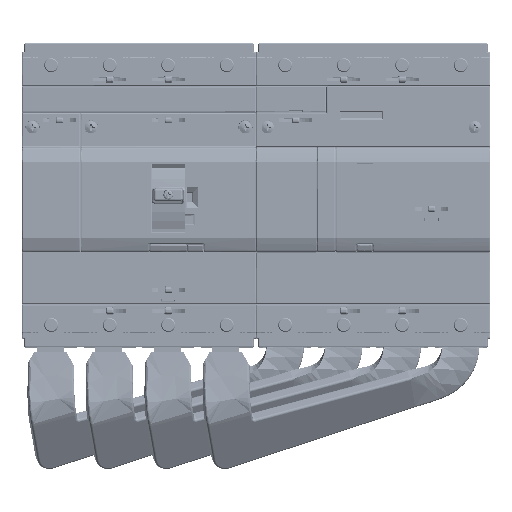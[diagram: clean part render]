
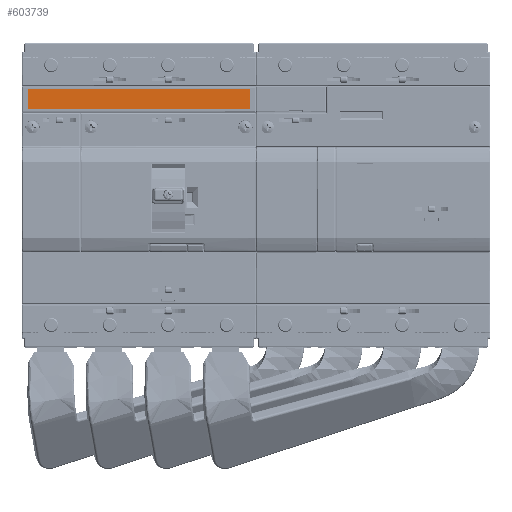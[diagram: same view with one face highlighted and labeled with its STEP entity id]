
A CAD part, top view. The second image highlights one B-rep face of the part: STEP entity #603739.
In plain terms, the highlighted planar face has unit normal (0, 0, 1).
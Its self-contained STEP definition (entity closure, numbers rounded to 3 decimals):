
#120441 = VECTOR ( 'NONE', #197080, 1000. ) ;
#121198 = VECTOR ( 'NONE', #201052, 1000. ) ;
#121327 = VECTOR ( 'NONE', #201807, 1000. ) ;
#121709 = VECTOR ( 'NONE', #203137, 1000. ) ;
#188679 = EDGE_LOOP ( 'NONE', ( #617472, #617476, #617481, #617485, #617490, #617494, #617503, #617511 ) ) ;
#197064 = LINE ( 'NONE', #197075, #120441 ) ;
#197075 = CARTESIAN_POINT ( 'NONE',  ( -89.749, 42.163, 23.444 ) ) ;
#197080 = DIRECTION ( 'NONE',  ( 1., 0., 0. ) ) ;
#200645 = CARTESIAN_POINT ( 'NONE',  ( -20.049, 42.385, 23.444 ) ) ;
#200665 = CARTESIAN_POINT ( 'NONE',  ( -20.081, 42.307, 23.444 ) ) ;
#200696 = CARTESIAN_POINT ( 'NONE',  ( -20.049, 42.463, 23.444 ) ) ;
#200710 = CARTESIAN_POINT ( 'NONE',  ( -20.192, 42.196, 23.444 ) ) ;
#200716 = CARTESIAN_POINT ( 'NONE',  ( -20.271, 42.163, 23.444 ) ) ;
#200721 = CARTESIAN_POINT ( 'NONE',  ( -20.349, 42.163, 23.444 ) ) ;
#201034 = LINE ( 'NONE', #201047, #121198 ) ;
#201047 = CARTESIAN_POINT ( 'NONE',  ( -89.749, 50.663, 23.444 ) ) ;
#201052 = DIRECTION ( 'NONE',  ( -1., 0., 0. ) ) ;
#201337 = CARTESIAN_POINT ( 'NONE',  ( -114.79, 50.661, 23.444 ) ) ;
#201433 = CARTESIAN_POINT ( 'NONE',  ( -114.77, 50.663, 23.444 ) ) ;
#201444 = CARTESIAN_POINT ( 'NONE',  ( -114.749, 50.663, 23.444 ) ) ;
#201451 = CARTESIAN_POINT ( 'NONE',  ( -114.828, 50.653, 23.444 ) ) ;
#201457 = CARTESIAN_POINT ( 'NONE',  ( -114.844, 50.648, 23.444 ) ) ;
#201463 = CARTESIAN_POINT ( 'NONE',  ( -114.883, 50.632, 23.444 ) ) ;
#201470 = CARTESIAN_POINT ( 'NONE',  ( -114.901, 50.622, 23.444 ) ) ;
#201476 = CARTESIAN_POINT ( 'NONE',  ( -114.933, 50.601, 23.444 ) ) ;
#201483 = CARTESIAN_POINT ( 'NONE',  ( -114.947, 50.59, 23.444 ) ) ;
#201489 = CARTESIAN_POINT ( 'NONE',  ( -115.018, 50.517, 23.444 ) ) ;
#201493 = CARTESIAN_POINT ( 'NONE',  ( -115.048, 50.446, 23.444 ) ) ;
#201498 = CARTESIAN_POINT ( 'NONE',  ( -115.049, 50.363, 23.444 ) ) ;
#201752 = LINE ( 'NONE', #201792, #121327 ) ;
#201792 = CARTESIAN_POINT ( 'NONE',  ( -20.049, 50.363, 23.444 ) ) ;
#201807 = DIRECTION ( 'NONE',  ( 0., 1., 0. ) ) ;
#203130 = LINE ( 'NONE', #203134, #121709 ) ;
#203134 = CARTESIAN_POINT ( 'NONE',  ( -115.049, 50.363, 23.444 ) ) ;
#203137 = DIRECTION ( 'NONE',  ( 0., -1., 0. ) ) ;
#277161 = EDGE_CURVE ( 'NONE', #330633, #330628, #555143, .T. ) ;
#280887 = EDGE_CURVE ( 'NONE', #330678, #330681, #557153, .T. ) ;
#280910 = EDGE_CURVE ( 'NONE', #330681, #330687, #197064, .T. ) ;
#281589 = EDGE_CURVE ( 'NONE', #330661, #330687, #557455, .T. ) ;
#281644 = EDGE_CURVE ( 'NONE', #330628, #330668, #201034, .T. ) ;
#281717 = EDGE_CURVE ( 'NONE', #330668, #330670, #557515, .T. ) ;
#281784 = EDGE_CURVE ( 'NONE', #330661, #330633, #201752, .T. ) ;
#282116 = EDGE_CURVE ( 'NONE', #330670, #330678, #203130, .T. ) ;
#330628 = VERTEX_POINT ( 'NONE', #427823 ) ;
#330633 = VERTEX_POINT ( 'NONE', #427839 ) ;
#330661 = VERTEX_POINT ( 'NONE', #427867 ) ;
#330668 = VERTEX_POINT ( 'NONE', #427835 ) ;
#330670 = VERTEX_POINT ( 'NONE', #427875 ) ;
#330678 = VERTEX_POINT ( 'NONE', #427843 ) ;
#330681 = VERTEX_POINT ( 'NONE', #427885 ) ;
#330687 = VERTEX_POINT ( 'NONE', #427857 ) ;
#375912 = AXIS2_PLACEMENT_3D ( 'NONE', #510573, #510575, #510581 ) ;
#427823 = CARTESIAN_POINT ( 'NONE',  ( -20.349, 50.663, 23.444 ) ) ;
#427835 = CARTESIAN_POINT ( 'NONE',  ( -114.749, 50.663, 23.444 ) ) ;
#427839 = CARTESIAN_POINT ( 'NONE',  ( -20.049, 50.363, 23.444 ) ) ;
#427843 = CARTESIAN_POINT ( 'NONE',  ( -115.049, 42.463, 23.444 ) ) ;
#427857 = CARTESIAN_POINT ( 'NONE',  ( -20.349, 42.163, 23.444 ) ) ;
#427867 = CARTESIAN_POINT ( 'NONE',  ( -20.049, 42.463, 23.444 ) ) ;
#427875 = CARTESIAN_POINT ( 'NONE',  ( -115.049, 50.363, 23.444 ) ) ;
#427885 = CARTESIAN_POINT ( 'NONE',  ( -114.749, 42.163, 23.444 ) ) ;
#487821 = CARTESIAN_POINT ( 'NONE',  ( -20.05, 50.385, 23.444 ) ) ;
#487829 = CARTESIAN_POINT ( 'NONE',  ( -20.052, 50.405, 23.444 ) ) ;
#487927 = CARTESIAN_POINT ( 'NONE',  ( -20.049, 50.363, 23.444 ) ) ;
#487934 = CARTESIAN_POINT ( 'NONE',  ( -20.059, 50.443, 23.444 ) ) ;
#487939 = CARTESIAN_POINT ( 'NONE',  ( -20.064, 50.46, 23.444 ) ) ;
#487943 = CARTESIAN_POINT ( 'NONE',  ( -20.08, 50.498, 23.444 ) ) ;
#487947 = CARTESIAN_POINT ( 'NONE',  ( -20.09, 50.515, 23.444 ) ) ;
#487952 = CARTESIAN_POINT ( 'NONE',  ( -20.111, 50.548, 23.444 ) ) ;
#487956 = CARTESIAN_POINT ( 'NONE',  ( -20.122, 50.561, 23.444 ) ) ;
#487959 = CARTESIAN_POINT ( 'NONE',  ( -20.195, 50.632, 23.444 ) ) ;
#487963 = CARTESIAN_POINT ( 'NONE',  ( -20.266, 50.661, 23.444 ) ) ;
#487968 = CARTESIAN_POINT ( 'NONE',  ( -20.349, 50.663, 23.444 ) ) ;
#510484 = FACE_OUTER_BOUND ( 'NONE', #188679, .T. ) ;
#510493 = PLANE ( 'NONE',  #375912 ) ;
#510573 = CARTESIAN_POINT ( 'NONE',  ( -89.749, 50.363, 23.444 ) ) ;
#510575 = DIRECTION ( 'NONE',  ( 0., 0., -1. ) ) ;
#510581 = DIRECTION ( 'NONE',  ( -1., 0., 0. ) ) ;
#538812 = CARTESIAN_POINT ( 'NONE',  ( -115.047, 42.423, 23.444 ) ) ;
#538814 = CARTESIAN_POINT ( 'NONE',  ( -115.049, 42.443, 23.444 ) ) ;
#538823 = CARTESIAN_POINT ( 'NONE',  ( -115.049, 42.463, 23.444 ) ) ;
#538828 = CARTESIAN_POINT ( 'NONE',  ( -115.039, 42.385, 23.444 ) ) ;
#538830 = CARTESIAN_POINT ( 'NONE',  ( -115.034, 42.367, 23.444 ) ) ;
#538832 = CARTESIAN_POINT ( 'NONE',  ( -115.018, 42.33, 23.444 ) ) ;
#538835 = CARTESIAN_POINT ( 'NONE',  ( -115.009, 42.312, 23.444 ) ) ;
#538838 = CARTESIAN_POINT ( 'NONE',  ( -114.987, 42.279, 23.444 ) ) ;
#538841 = CARTESIAN_POINT ( 'NONE',  ( -114.976, 42.266, 23.444 ) ) ;
#538844 = CARTESIAN_POINT ( 'NONE',  ( -114.903, 42.193, 23.444 ) ) ;
#538846 = CARTESIAN_POINT ( 'NONE',  ( -114.832, 42.164, 23.444 ) ) ;
#538849 = CARTESIAN_POINT ( 'NONE',  ( -114.749, 42.163, 23.444 ) ) ;
#555143 = B_SPLINE_CURVE_WITH_KNOTS ( 'NONE', 3,
 ( #487927, #487821, #487829, #487934, #487939, #487943, #487947, #487952, #487956, #487959, #487963, #487968 ),
 .UNSPECIFIED., .F., .F.,
 ( 4, 2, 2, 2, 2, 4 ),
 ( 0., 0.125, 0.25, 0.375, 0.5, 1. ),
 .UNSPECIFIED. ) ;
#557153 = B_SPLINE_CURVE_WITH_KNOTS ( 'NONE', 3,
 ( #538823, #538814, #538812, #538828, #538830, #538832, #538835, #538838, #538841, #538844, #538846, #538849 ),
 .UNSPECIFIED., .F., .F.,
 ( 4, 2, 2, 2, 2, 4 ),
 ( 0., 0.125, 0.25, 0.375, 0.5, 1. ),
 .UNSPECIFIED. ) ;
#557455 = B_SPLINE_CURVE_WITH_KNOTS ( 'NONE', 3,
 ( #200696, #200645, #200665, #200710, #200716, #200721 ),
 .UNSPECIFIED., .F., .F.,
 ( 4, 2, 4 ),
 ( 0., 0.5, 1. ),
 .UNSPECIFIED. ) ;
#557515 = B_SPLINE_CURVE_WITH_KNOTS ( 'NONE', 3,
 ( #201444, #201433, #201337, #201451, #201457, #201463, #201470, #201476, #201483, #201489, #201493, #201498 ),
 .UNSPECIFIED., .F., .F.,
 ( 4, 2, 2, 2, 2, 4 ),
 ( 0., 0.125, 0.25, 0.375, 0.5, 1. ),
 .UNSPECIFIED. ) ;
#603739 = ADVANCED_FACE ( 'NONE', ( #510484 ), #510493, .F. ) ;
#617472 = ORIENTED_EDGE ( 'NONE', *, *, #277161, .T. ) ;
#617476 = ORIENTED_EDGE ( 'NONE', *, *, #281644, .T. ) ;
#617481 = ORIENTED_EDGE ( 'NONE', *, *, #281717, .T. ) ;
#617485 = ORIENTED_EDGE ( 'NONE', *, *, #282116, .T. ) ;
#617490 = ORIENTED_EDGE ( 'NONE', *, *, #280887, .T. ) ;
#617494 = ORIENTED_EDGE ( 'NONE', *, *, #280910, .T. ) ;
#617503 = ORIENTED_EDGE ( 'NONE', *, *, #281589, .F. ) ;
#617511 = ORIENTED_EDGE ( 'NONE', *, *, #281784, .T. ) ;
